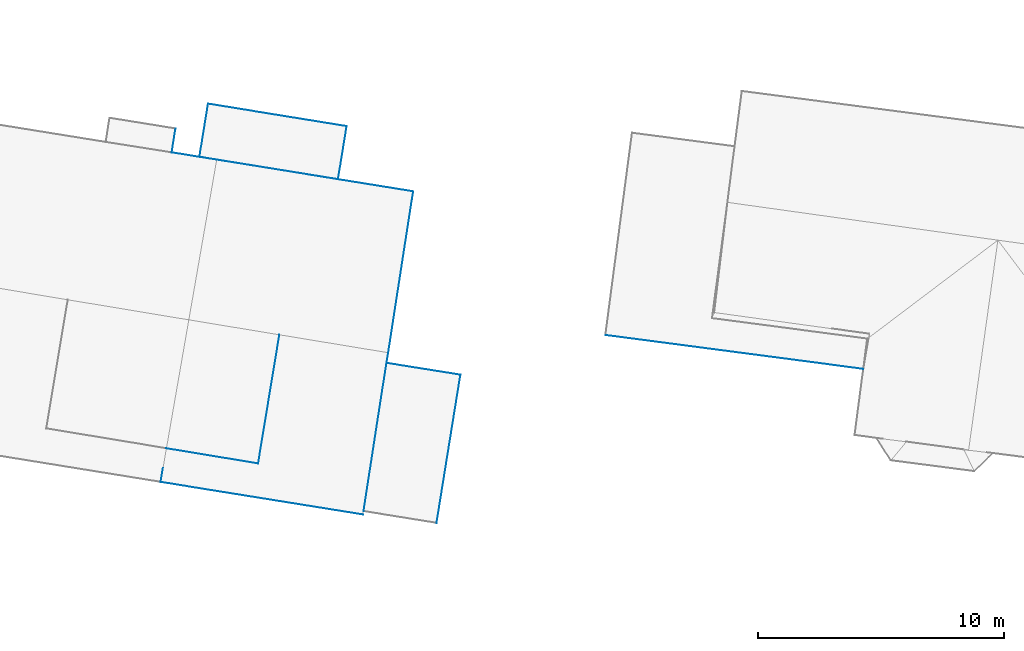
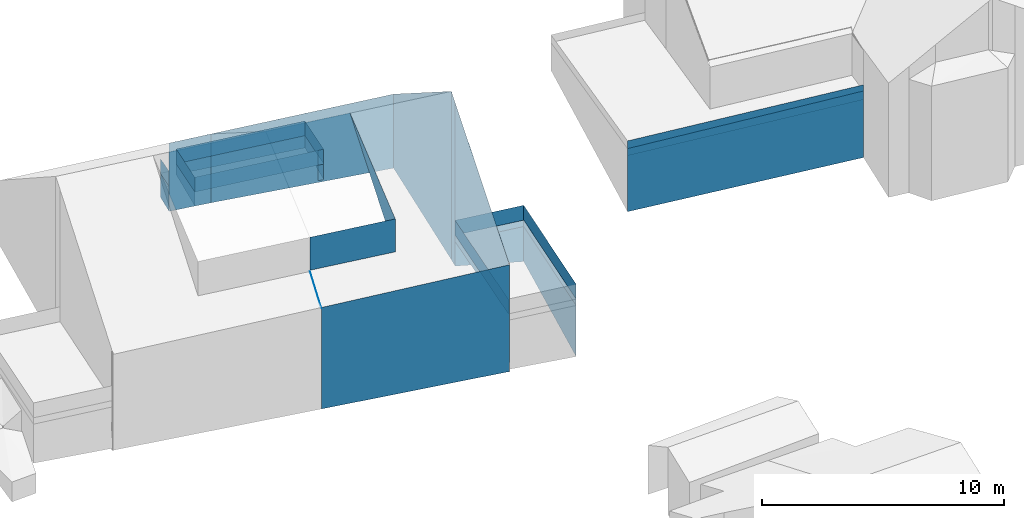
# Not in any storey, part 28 of 57: 38 walls.
"""IFC2X3 building model written with IfcOpenShell, lengths in metres."""

from ifc_helpers import new_model, entity, si_unit, converted_unit, frame, origin, place, context, subcontext, project, spatial, face_set, surface_model, element, save


model = new_model("IFC2X3")

# Units and contexts
model_context = context("Model", 3, precision=1e-05, world=origin())
body_context = subcontext(model_context, "Body", "Model", "MODEL_VIEW")
ifc_project = project(units=[converted_unit("PLANEANGLEUNIT", "DEGREE", entity("IfcRatioMeasure", 0.0174532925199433), si_unit("PLANEANGLEUNIT", "RADIAN"), dimensions=[0, 0, 0, 0, 0, 0, 0]), si_unit("AREAUNIT", "SQUARE_METRE"), si_unit("LENGTHUNIT", "METRE")], contexts=[model_context])

# Site, building
site_placement = place(None, origin())
site = spatial("IfcSite", under=ifc_project, at=site_placement, Name="_site", CompositionType="ELEMENT")
building_1_placement = place(site_placement, origin())
building_1 = spatial("IfcBuilding", under=site, at=building_1_placement, Name="_building", CompositionType="ELEMENT")

# Walls
wall_1_placement = place(building_1_placement, origin())
element("IfcWall", 1, at=wall_1_placement, inside=building_1, Name="Wall", context=body_context, shape_type="SurfaceModel", body=[
    surface_model("IfcFaceBasedSurfaceModel", [(233.55, 89.753, 110.25), (223.086, 91.129, 110.17), (223.086, 91.129, 106.988), (233.55, 89.753, 106.893)], [face_set([[[0, 1, 2, 3]]])]),
])
for number, where, name in (
    (2, (0.0, 0.0, 0.0), "Wall"),
    (3, (0.0, 0.0, 0.0), "Wall"),
):
    element("IfcWall", number, at=place(building_1_placement, frame(where)), inside=building_1, Name=name, context=body_context, shape_type="SurfaceModel", body=[
        surface_model("IfcFaceBasedSurfaceModel", [(223.086, 91.129, 109.81), (233.55, 89.753, 109.81), (233.55, 89.753, 110.56), (223.086, 91.129, 110.56)], [face_set([[[0, 1, 2, 3]]])]),
    ])

# Building
building_2_placement = place(site_placement, origin())
building_2 = spatial("IfcBuilding", under=site, at=building_2_placement, Name="_building", CompositionType="ELEMENT")

# Walls
wall_2_placement = place(building_2_placement, origin())
element("IfcWall", 4, at=wall_2_placement, inside=building_2, Name="Wall", context=body_context, shape_type="SurfaceModel", body=[
    surface_model("IfcFaceBasedSurfaceModel", [(217.204, 89.515, 109.6), (216.233, 83.505, 109.6), (216.233, 83.505, 109.28), (217.204, 89.515, 109.28)], [face_set([[[0, 1, 2, 3]]])]),
])
wall_3_placement = place(building_2_placement, origin())
element("IfcWall", 5, at=wall_3_placement, inside=building_2, Name="Wall", context=body_context, shape_type="SurfaceModel", body=[
    surface_model("IfcFaceBasedSurfaceModel", [(214.204, 89.996, 109.6), (217.204, 89.515, 109.6), (217.204, 89.515, 109.28), (214.204, 89.996, 109.28)], [face_set([[[0, 1, 2, 3]]])]),
])
wall_4_placement = place(building_2_placement, origin())
element("IfcWall", 6, at=wall_4_placement, inside=building_2, Name="Wall", context=body_context, shape_type="SurfaceModel", body=[
    surface_model("IfcFaceBasedSurfaceModel", [(217.204, 89.515, 109.28), (216.233, 83.505, 109.28), (216.233, 83.505, 106.702), (217.204, 89.515, 107.51)], [face_set([[[0, 1, 2, 3]]])]),
])
wall_5_placement = place(building_2_placement, origin())
element("IfcWall", 7, at=wall_5_placement, inside=building_2, Name="Wall", context=body_context, shape_type="SurfaceModel", body=[
    surface_model("IfcFaceBasedSurfaceModel", [(214.204, 89.996, 109.28), (217.204, 89.515, 109.28), (217.204, 89.515, 107.51), (214.204, 89.996, 108.041)], [face_set([[[0, 1, 2, 3]]])]),
])
wall_6_placement = place(building_2_placement, origin())
element("IfcWall", 8, at=wall_6_placement, inside=building_2, Name="Wall", context=body_context, shape_type="SurfaceModel", body=[
    surface_model("IfcFaceBasedSurfaceModel", [(214.204, 89.996, 109.6), (213.273, 83.984, 109.6), (213.273, 83.984, 110.35), (214.204, 89.996, 110.35)], [face_set([[[0, 1, 2, 3]]])]),
])
wall_7_placement = place(building_2_placement, origin())
element("IfcWall", 9, at=wall_7_placement, inside=building_2, Name="Wall", context=body_context, shape_type="SurfaceModel", body=[
    surface_model("IfcFaceBasedSurfaceModel", [(217.204, 89.515, 109.6), (214.204, 89.996, 109.6), (214.204, 89.996, 110.35), (217.204, 89.515, 110.35)], [face_set([[[0, 1, 2, 3]]])]),
])
wall_8_placement = place(building_2_placement, origin())
element("IfcWall", 10, at=wall_8_placement, inside=building_2, Name="Wall", context=body_context, shape_type="SurfaceModel", body=[
    surface_model("IfcFaceBasedSurfaceModel", [(216.233, 83.505, 109.6), (217.204, 89.515, 109.6), (217.204, 89.515, 110.35), (216.233, 83.505, 110.35)], [face_set([[[0, 1, 2, 3]]])]),
])
wall_9_placement = place(building_2_placement, origin())
element("IfcWall", 11, at=wall_9_placement, inside=building_2, Name="Wall", context=body_context, shape_type="SurfaceModel", body=[
    surface_model("IfcFaceBasedSurfaceModel", [(214.204, 89.996, 109.6), (213.273, 83.984, 109.6), (213.273, 83.984, 110.35), (214.204, 89.996, 110.35)], [face_set([[[0, 1, 2, 3]]])]),
])
wall_10_placement = place(building_2_placement, origin())
element("IfcWall", 12, at=wall_10_placement, inside=building_2, Name="Wall", context=body_context, shape_type="SurfaceModel", body=[
    surface_model("IfcFaceBasedSurfaceModel", [(217.204, 89.515, 109.6), (214.204, 89.996, 109.6), (214.204, 89.996, 110.35), (217.204, 89.515, 110.35)], [face_set([[[0, 1, 2, 3]]])]),
])
wall_11_placement = place(building_2_placement, origin())
element("IfcWall", 13, at=wall_11_placement, inside=building_2, Name="Wall", context=body_context, shape_type="SurfaceModel", body=[
    surface_model("IfcFaceBasedSurfaceModel", [(216.233, 83.505, 109.6), (217.204, 89.515, 109.6), (217.204, 89.515, 110.35), (216.233, 83.505, 110.35)], [face_set([[[0, 1, 2, 3]]])]),
])

# Building
building_3_placement = place(site_placement, origin())
building_3 = spatial("IfcBuilding", under=site, at=building_3_placement, Name="_building", CompositionType="ELEMENT")

# Walls
wall_12_placement = place(building_3_placement, origin())
element("IfcWall", 14, at=wall_12_placement, inside=building_3, Name="Wall", context=body_context, shape_type="SurfaceModel", body=[
    surface_model("IfcFaceBasedSurfaceModel", [(205.641, 99.503, 109.94), (205.488, 98.535, 109.94), (205.488, 98.535, 108.677), (205.641, 99.503, 108.739)], [face_set([[[0, 1, 2, 3]]])]),
])
wall_13_placement = place(building_3_placement, origin())
element("IfcWall", 15, at=wall_13_placement, inside=building_3, Name="Wall", context=body_context, shape_type="SurfaceModel", body=[
    surface_model("IfcFaceBasedSurfaceModel", [(205.641, 99.503, 110.22), (205.488, 98.535, 110.22), (205.488, 98.535, 108.677), (205.641, 99.503, 108.739)], [face_set([[[0, 1, 2, 3]]])]),
])
wall_14_placement = place(building_3_placement, origin())
element("IfcWall", 16, at=wall_14_placement, inside=building_3, Name="Wall", context=body_context, shape_type="SurfaceModel", body=[
    surface_model("IfcFaceBasedSurfaceModel", [(205.488, 98.535, 112.12), (207.312, 98.242, 112.12), (207.312, 98.242, 108.645), (205.488, 98.535, 108.677)], [face_set([[[0, 1, 2, 3]]])]),
])
for number, where, name in (
    (17, (0.0, 0.0, 0.0), "Wall"),
    (18, (0.0, 0.0, 0.0), "Wall"),
):
    element("IfcWall", number, at=place(building_3_placement, frame(where)), inside=building_3, Name=name, context=body_context, shape_type="SurfaceModel", body=[
        surface_model("IfcFaceBasedSurfaceModel", [(205.641, 99.503, 109.94), (205.488, 98.535, 109.94), (205.488, 98.535, 110.69), (205.641, 99.503, 110.69)], [face_set([[[0, 1, 2, 3]]])]),
    ])

# Building
building_4_placement = place(site_placement, origin())
building_4 = spatial("IfcBuilding", under=site, at=building_4_placement, Name="_building", CompositionType="ELEMENT")

# Walls
wall_15_placement = place(building_4_placement, origin())
element("IfcWall", 19, at=wall_15_placement, inside=building_4, Name="Wall", context=body_context, shape_type="SurfaceModel", body=[
    surface_model("IfcFaceBasedSurfaceModel", [(212.237, 97.447, 109.36), (206.615, 98.359, 109.36), (206.615, 98.359, 108.655), (212.237, 97.447, 108.577)], [face_set([[[0, 1, 2, 3]]])]),
])
wall_16_placement = place(building_4_placement, origin())
element("IfcWall", 20, at=wall_16_placement, inside=building_4, Name="Wall", context=body_context, shape_type="SurfaceModel", body=[
    surface_model("IfcFaceBasedSurfaceModel", [(208.995, 85.916, 114.72), (205.272, 86.532, 114.72), (205.272, 86.532, 113.056), (208.995, 85.916, 113.056)], [face_set([[[0, 1, 2, 3]]])]),
])
wall_17_placement = place(building_4_placement, origin())
element("IfcWall", 21, at=wall_17_placement, inside=building_4, Name="Wall", context=body_context, shape_type="SurfaceModel", body=[
    surface_model("IfcFaceBasedSurfaceModel", [(206.965, 100.512, 109.36), (212.587, 99.6, 109.36), (212.587, 99.6, 108.746), (206.965, 100.512, 108.817)], [face_set([[[0, 1, 2, 3]]])]),
])
wall_18_placement = place(building_4_placement, origin())
element("IfcWall", 22, at=wall_18_placement, inside=building_4, Name="Wall", context=body_context, shape_type="SurfaceModel", body=[
    surface_model("IfcFaceBasedSurfaceModel", [(212.587, 99.6, 109.36), (212.237, 97.447, 109.36), (212.237, 97.447, 108.577), (212.587, 99.6, 108.746)], [face_set([[[0, 1, 2, 3]]])]),
])
wall_19_placement = place(building_4_placement, origin())
element("IfcWall", 23, at=wall_19_placement, inside=building_4, Name="Wall", context=body_context, shape_type="SurfaceModel", body=[
    surface_model("IfcFaceBasedSurfaceModel", [(206.615, 98.359, 109.36), (206.965, 100.512, 109.36), (206.965, 100.512, 108.817), (206.615, 98.359, 108.655)], [face_set([[[0, 1, 2, 3]]])]),
])
wall_20_placement = place(building_4_placement, origin())
element("IfcWall", 24, at=wall_20_placement, inside=building_4, Name="Wall", context=body_context, shape_type="SurfaceModel", body=[
    surface_model("IfcFaceBasedSurfaceModel", [(205.035, 85.168, 112.09), (205.272, 86.532, 113.056), (205.272, 86.532, 112.995), (205.035, 85.168, 112.04)], [face_set([[[0, 1, 2, 3]]])]),
])
wall_21_placement = place(building_4_placement, origin())
element("IfcWall", 25, at=wall_21_placement, inside=building_4, Name="Wall", context=body_context, shape_type="SurfaceModel", body=[
    surface_model("IfcFaceBasedSurfaceModel", [(213.249, 83.845, 112.17), (205.035, 85.168, 112.09), (205.035, 85.168, 106.97), (213.249, 83.845, 106.787)], [face_set([[[0, 1, 2, 3]]])]),
])
wall_22_placement = place(building_4_placement, origin())
element("IfcWall", 26, at=wall_22_placement, inside=building_4, Name="Wall", context=body_context, shape_type="SurfaceModel", body=[
    surface_model("IfcFaceBasedSurfaceModel", [(214.274, 90.415, 116.58), (214.204, 89.996, 116.3), (214.204, 89.996, 108.041), (214.274, 90.415, 108.074)], [face_set([[[0, 1, 2, 3]]])]),
])
wall_23_placement = place(building_4_placement, origin())
element("IfcWall", 27, at=wall_23_placement, inside=building_4, Name="Wall", context=body_context, shape_type="SurfaceModel", body=[
    surface_model("IfcFaceBasedSurfaceModel", [(214.204, 89.996, 116.3), (213.273, 83.984, 112.26), (213.273, 83.984, 109.28), (214.204, 89.996, 109.28)], [face_set([[[0, 1, 2, 3]]])]),
])
wall_24_placement = place(building_4_placement, origin())
element("IfcWall", 28, at=wall_24_placement, inside=building_4, Name="Wall", context=body_context, shape_type="SurfaceModel", body=[
    surface_model("IfcFaceBasedSurfaceModel", [(209.859, 91.142, 116.58), (208.995, 85.916, 114.72), (208.995, 85.916, 113.056), (209.859, 91.142, 116.56)], [face_set([[[0, 1, 2, 3]]])]),
])
wall_25_placement = place(building_4_placement, origin())
element("IfcWall", 29, at=wall_25_placement, inside=building_4, Name="Wall", context=body_context, shape_type="SurfaceModel", body=[
    surface_model("IfcFaceBasedSurfaceModel", [(215.287, 96.955, 112.12), (214.274, 90.415, 116.58), (214.274, 90.415, 108.074), (215.287, 96.955, 108.383)], [face_set([[[0, 1, 2, 3]]])]),
])
wall_26_placement = place(building_4_placement, origin())
element("IfcWall", 30, at=wall_26_placement, inside=building_4, Name="Wall", context=body_context, shape_type="SurfaceModel", body=[
    surface_model("IfcFaceBasedSurfaceModel", [(207.312, 98.242, 112.12), (215.287, 96.955, 112.12), (215.287, 96.955, 108.383), (207.312, 98.242, 108.645)], [face_set([[[0, 1, 2, 3]]])]),
])
wall_27_placement = place(building_4_placement, origin())
element("IfcWall", 31, at=wall_27_placement, inside=building_4, Name="Wall", context=body_context, shape_type="SurfaceModel", body=[
    surface_model("IfcFaceBasedSurfaceModel", [(206.615, 98.359, 109.36), (206.965, 100.512, 109.36), (206.965, 100.512, 110.11), (206.615, 98.359, 110.11)], [face_set([[[0, 1, 2, 3]]])]),
])
wall_28_placement = place(building_4_placement, origin())
element("IfcWall", 32, at=wall_28_placement, inside=building_4, Name="Wall", context=body_context, shape_type="SurfaceModel", body=[
    surface_model("IfcFaceBasedSurfaceModel", [(212.587, 99.6, 109.36), (212.237, 97.447, 109.36), (212.237, 97.447, 110.11), (212.587, 99.6, 110.11)], [face_set([[[0, 1, 2, 3]]])]),
])
wall_29_placement = place(building_4_placement, origin())
element("IfcWall", 33, at=wall_29_placement, inside=building_4, Name="Wall", context=body_context, shape_type="SurfaceModel", body=[
    surface_model("IfcFaceBasedSurfaceModel", [(206.965, 100.512, 109.36), (212.587, 99.6, 109.36), (212.587, 99.6, 110.11), (206.965, 100.512, 110.11)], [face_set([[[0, 1, 2, 3]]])]),
])
wall_30_placement = place(building_4_placement, origin())
element("IfcWall", 34, at=wall_30_placement, inside=building_4, Name="Wall", context=body_context, shape_type="SurfaceModel", body=[
    surface_model("IfcFaceBasedSurfaceModel", [(212.237, 97.447, 109.36), (206.615, 98.359, 109.36), (206.615, 98.359, 110.11), (212.237, 97.447, 110.11)], [face_set([[[0, 1, 2, 3]]])]),
])
wall_31_placement = place(building_4_placement, origin())
element("IfcWall", 35, at=wall_31_placement, inside=building_4, Name="Wall", context=body_context, shape_type="SurfaceModel", body=[
    surface_model("IfcFaceBasedSurfaceModel", [(212.587, 99.6, 109.36), (212.237, 97.447, 109.36), (212.237, 97.447, 110.11), (212.587, 99.6, 110.11)], [face_set([[[0, 1, 2, 3]]])]),
])
wall_32_placement = place(building_4_placement, origin())
element("IfcWall", 36, at=wall_32_placement, inside=building_4, Name="Wall", context=body_context, shape_type="SurfaceModel", body=[
    surface_model("IfcFaceBasedSurfaceModel", [(206.965, 100.512, 109.36), (212.587, 99.6, 109.36), (212.587, 99.6, 110.11), (206.965, 100.512, 110.11)], [face_set([[[0, 1, 2, 3]]])]),
])
wall_33_placement = place(building_4_placement, origin())
element("IfcWall", 37, at=wall_33_placement, inside=building_4, Name="Wall", context=body_context, shape_type="SurfaceModel", body=[
    surface_model("IfcFaceBasedSurfaceModel", [(206.615, 98.359, 109.36), (206.965, 100.512, 109.36), (206.965, 100.512, 110.11), (206.615, 98.359, 110.11)], [face_set([[[0, 1, 2, 3]]])]),
])
wall_34_placement = place(building_4_placement, origin())
element("IfcWall", 38, at=wall_34_placement, inside=building_4, Name="Wall", context=body_context, shape_type="SurfaceModel", body=[
    surface_model("IfcFaceBasedSurfaceModel", [(212.237, 97.447, 109.36), (206.615, 98.359, 109.36), (206.615, 98.359, 110.11), (212.237, 97.447, 110.11)], [face_set([[[0, 1, 2, 3]]])]),
])

save(model, "model.ifc")
